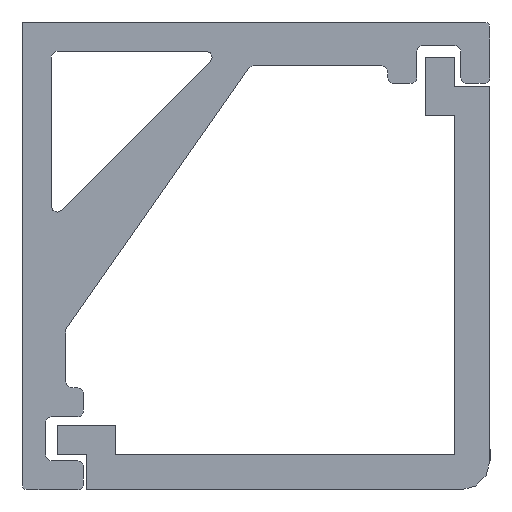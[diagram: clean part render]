
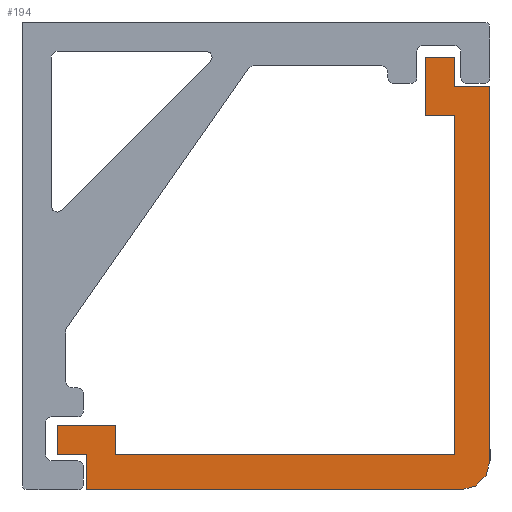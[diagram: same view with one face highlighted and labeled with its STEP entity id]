
A CAD part, left-side view. The second image highlights one B-rep face of the part: STEP entity #194.
In plain terms, the highlighted planar face has unit normal (-1, 0, 0).
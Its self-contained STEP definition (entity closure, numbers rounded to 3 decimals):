
#132=FACE_OUTER_BOUND('',#302,.T.);
#194=ADVANCED_FACE('',(#132),#234,.T.);
#234=PLANE('',#1351);
#302=EDGE_LOOP('',(#680,#681,#682,#683,#684,#685,#686,#687,#688,#689,#690,
#691,#692,#693,#694));
#345=CIRCLE('',#1343,1.);
#680=ORIENTED_EDGE('',*,*,#940,.F.);
#681=ORIENTED_EDGE('',*,*,#983,.F.);
#682=ORIENTED_EDGE('',*,*,#980,.F.);
#683=ORIENTED_EDGE('',*,*,#977,.F.);
#684=ORIENTED_EDGE('',*,*,#974,.F.);
#685=ORIENTED_EDGE('',*,*,#971,.F.);
#686=ORIENTED_EDGE('',*,*,#968,.F.);
#687=ORIENTED_EDGE('',*,*,#965,.F.);
#688=ORIENTED_EDGE('',*,*,#962,.F.);
#689=ORIENTED_EDGE('',*,*,#959,.F.);
#690=ORIENTED_EDGE('',*,*,#956,.F.);
#691=ORIENTED_EDGE('',*,*,#953,.F.);
#692=ORIENTED_EDGE('',*,*,#950,.F.);
#693=ORIENTED_EDGE('',*,*,#947,.F.);
#694=ORIENTED_EDGE('',*,*,#944,.F.);
#781=VERTEX_POINT('',#1958);
#782=VERTEX_POINT('',#1959);
#785=VERTEX_POINT('',#1967);
#787=VERTEX_POINT('',#1973);
#789=VERTEX_POINT('',#1979);
#791=VERTEX_POINT('',#1985);
#793=VERTEX_POINT('',#1991);
#795=VERTEX_POINT('',#1997);
#797=VERTEX_POINT('',#2003);
#799=VERTEX_POINT('',#2009);
#801=VERTEX_POINT('',#2015);
#803=VERTEX_POINT('',#2021);
#805=VERTEX_POINT('',#2027);
#807=VERTEX_POINT('',#2033);
#809=VERTEX_POINT('',#2039);
#940=EDGE_CURVE('',#781,#782,#1072,.T.);
#944=EDGE_CURVE('',#782,#785,#1076,.T.);
#947=EDGE_CURVE('',#785,#787,#1079,.T.);
#950=EDGE_CURVE('',#787,#789,#1082,.T.);
#953=EDGE_CURVE('',#789,#791,#1085,.T.);
#956=EDGE_CURVE('',#791,#793,#1088,.T.);
#959=EDGE_CURVE('',#793,#795,#1091,.T.);
#962=EDGE_CURVE('',#795,#797,#1094,.T.);
#965=EDGE_CURVE('',#797,#799,#1097,.T.);
#968=EDGE_CURVE('',#799,#801,#1100,.T.);
#971=EDGE_CURVE('',#801,#803,#345,.T.);
#974=EDGE_CURVE('',#803,#805,#1104,.T.);
#977=EDGE_CURVE('',#805,#807,#1107,.T.);
#980=EDGE_CURVE('',#807,#809,#1110,.T.);
#983=EDGE_CURVE('',#809,#781,#1113,.T.);
#1072=LINE('',#1957,#1202);
#1076=LINE('',#1966,#1206);
#1079=LINE('',#1972,#1209);
#1082=LINE('',#1978,#1212);
#1085=LINE('',#1984,#1215);
#1088=LINE('',#1990,#1218);
#1091=LINE('',#1996,#1221);
#1094=LINE('',#2002,#1224);
#1097=LINE('',#2008,#1227);
#1100=LINE('',#2014,#1230);
#1104=LINE('',#2026,#1234);
#1107=LINE('',#2032,#1237);
#1110=LINE('',#2038,#1240);
#1113=LINE('',#2044,#1243);
#1202=VECTOR('',#1615,1.);
#1206=VECTOR('',#1621,1.);
#1209=VECTOR('',#1626,1.);
#1212=VECTOR('',#1631,1.);
#1215=VECTOR('',#1636,1.);
#1218=VECTOR('',#1641,1.);
#1221=VECTOR('',#1646,1.);
#1224=VECTOR('',#1651,1.);
#1227=VECTOR('',#1656,1.);
#1230=VECTOR('',#1661,1.);
#1234=VECTOR('',#1673,1.);
#1237=VECTOR('',#1678,1.);
#1240=VECTOR('',#1683,1.);
#1243=VECTOR('',#1688,1.);
#1343=AXIS2_PLACEMENT_3D('',#2020,#1666,#1667);
#1351=AXIS2_PLACEMENT_3D('',#2048,#1694,#1695);
#1615=DIRECTION('',(0.,-1.,0.));
#1621=DIRECTION('',(0.,0.,-1.));
#1626=DIRECTION('',(0.,-1.,0.));
#1631=DIRECTION('',(0.,0.,1.));
#1636=DIRECTION('',(0.,1.,0.));
#1641=DIRECTION('',(0.,0.,1.));
#1646=DIRECTION('',(0.,-1.,0.));
#1651=DIRECTION('',(0.,0.,-1.));
#1656=DIRECTION('',(0.,-1.,0.));
#1661=DIRECTION('',(0.,0.,-1.));
#1666=DIRECTION('',(1.,0.,0.));
#1667=DIRECTION('',(0.,0.,1.));
#1673=DIRECTION('',(0.,1.,0.));
#1678=DIRECTION('',(0.,0.,1.));
#1683=DIRECTION('',(0.,1.,0.));
#1688=DIRECTION('',(0.,0.,1.));
#1694=DIRECTION('',(-1.,0.,0.));
#1695=DIRECTION('',(0.,0.,1.));
#1957=CARTESIAN_POINT('',(-2202.3,7.8,-5.8));
#1958=CARTESIAN_POINT('',(-2202.3,6.8,-5.8));
#1959=CARTESIAN_POINT('',(-2202.3,4.8,-5.8));
#1966=CARTESIAN_POINT('',(-2202.3,4.8,-7.8));
#1967=CARTESIAN_POINT('',(-2202.3,4.8,-6.8));
#1972=CARTESIAN_POINT('',(-2202.3,7.8,-6.8));
#1973=CARTESIAN_POINT('',(-2202.3,-6.8,-6.8));
#1978=CARTESIAN_POINT('',(-2202.3,-6.8,-7.8));
#1979=CARTESIAN_POINT('',(-2202.3,-6.8,4.8));
#1984=CARTESIAN_POINT('',(-2202.3,7.8,4.8));
#1985=CARTESIAN_POINT('',(-2202.3,-5.8,4.8));
#1990=CARTESIAN_POINT('',(-2202.3,-5.8,-7.8));
#1991=CARTESIAN_POINT('',(-2202.3,-5.8,6.8));
#1996=CARTESIAN_POINT('',(-2202.3,7.8,6.8));
#1997=CARTESIAN_POINT('',(-2202.3,-6.8,6.8));
#2002=CARTESIAN_POINT('',(-2202.3,-6.8,-7.8));
#2003=CARTESIAN_POINT('',(-2202.3,-6.8,5.8));
#2008=CARTESIAN_POINT('',(-2202.3,7.8,5.8));
#2009=CARTESIAN_POINT('',(-2202.3,-8.,5.8));
#2014=CARTESIAN_POINT('',(-2202.3,-8.,-7.8));
#2015=CARTESIAN_POINT('',(-2202.3,-8.,-7.));
#2020=CARTESIAN_POINT('',(-2202.3,-7.,-7.));
#2021=CARTESIAN_POINT('',(-2202.3,-7.,-8.));
#2026=CARTESIAN_POINT('',(-2202.3,7.8,-8.));
#2027=CARTESIAN_POINT('',(-2202.3,5.8,-8.));
#2032=CARTESIAN_POINT('',(-2202.3,5.8,-7.8));
#2033=CARTESIAN_POINT('',(-2202.3,5.8,-6.8));
#2038=CARTESIAN_POINT('',(-2202.3,7.8,-6.8));
#2039=CARTESIAN_POINT('',(-2202.3,6.8,-6.8));
#2044=CARTESIAN_POINT('',(-2202.3,6.8,-7.8));
#2048=CARTESIAN_POINT('',(-2202.3,7.8,-7.8));
